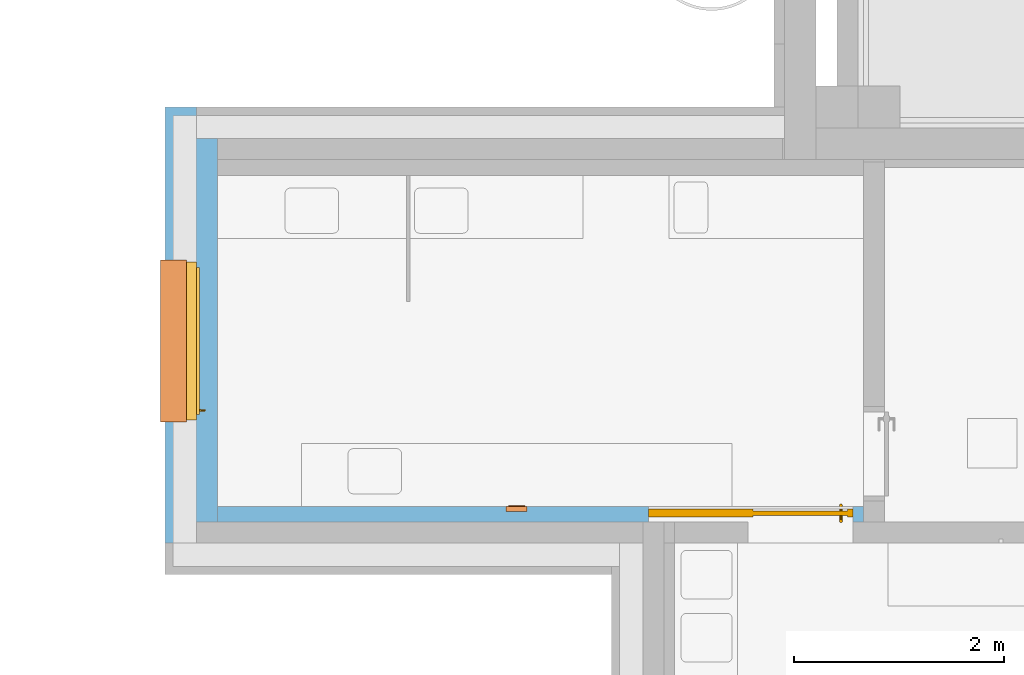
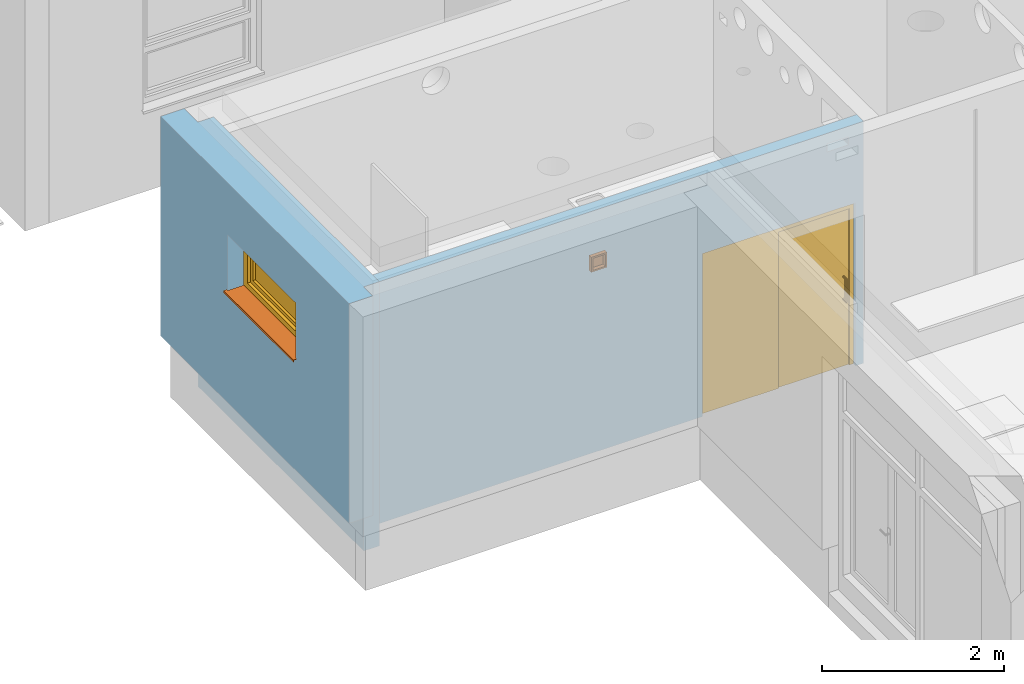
# One storey, part 67 of 140: 2 proxies, 1 door, 1 window, 4 openings, plus 2 elements that do not belong to this part.
"""IFC4 building model written with IfcOpenShell, lengths in metres."""

from ifc_helpers import new_model, entity, si_unit, converted_unit, derived_unit, frame, frame_2d, origin, origin_with_axes, place, context, subcontext, project, spatial, polyline, rectangle, outline, extrude, clip, bounded_halfspace, closed_shell, open_shell, faceted_brep, surface_model, source, transform, mapped, material, layer, layer_set, layer_usage, type_object, element, fill, save


model = new_model("IFC4")

# Units and contexts
model_context = context("Model", 3, precision=1e-05, world=origin())
body_context = subcontext(model_context, "Body", "Model", "MODEL_VIEW")
ifc_project = project(units=[si_unit("LENGTHUNIT", "METRE"), si_unit("AREAUNIT", "SQUARE_METRE"), si_unit("VOLUMEUNIT", "CUBIC_METRE"), si_unit("MASSUNIT", "GRAM", prefix="KILO"), converted_unit("PLANEANGLEUNIT", "DEGREE", entity("IfcPlaneAngleMeasure", 0.0174532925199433), si_unit("PLANEANGLEUNIT", "RADIAN"), dimensions=[0, 0, 0, 0, 0, 0, 0]), derived_unit("THERMALTRANSMITTANCEUNIT", [(si_unit("POWERUNIT", "WATT"), 1), (si_unit("THERMODYNAMICTEMPERATUREUNIT", "KELVIN"), -1), (si_unit("LENGTHUNIT", "METRE"), -2)]), derived_unit("VOLUMETRICFLOWRATEUNIT", [(si_unit("LENGTHUNIT", "METRE"), 3), (converted_unit("TIMEUNIT", "hour", entity("IfcTimeMeasure", 3600.0), si_unit("TIMEUNIT", "SECOND"), dimensions=[0, 0, 1, 0, 0, 0, 0]), -1), (si_unit("LENGTHUNIT", "METRE"), -1)])], contexts=[model_context])

# Site, building, storey
site_placement = place(None, origin())
site = spatial("IfcSite", under=ifc_project, at=site_placement, Name="3. ASŘ", CompositionType="ELEMENT")
building_placement = place(site_placement, origin())
building = spatial("IfcBuilding", under=site, at=building_placement, Name="Pavilon C", CompositionType="ELEMENT")
storey_placement = place(building_placement, origin())
storey = spatial("IfcBuildingStorey", under=building, at=storey_placement, Name="Půdorys 1.NP", CompositionType="ELEMENT", Elevation=0.0)

# Wall, opening, window, proxy
ifc_material_1 = material(Name="ZELEZOBETONOVÁ KCE")
ifc_layer_1 = layer(ifc_material_1, 0.2)
ifc_material_2 = material(Name="MINERÁLNÍ VATA")
ifc_layer_2 = layer(ifc_material_2, 0.3)
ifc_layer_set_1 = layer_set([ifc_layer_1, ifc_layer_2])
ifc_layer_usage_1 = layer_usage(ifc_layer_set_1, "AXIS2", "POSITIVE", 0.0)
wall_1_placement = place(storey_placement, frame((24.95, -7.95000000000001, -0.3), z_axis=(0.0, 0.0, 1.0), x_axis=(0.0, 1.0, 0.0)))
wall_1 = element("IfcWall", 1, at=wall_1_placement, inside=storey, material=ifc_layer_usage_1, Name="ZELEZOBETONOVÁ KCE", context=body_context, shape_type="Clipping", body=[
    clip(extrude(outline(polyline([(0.200000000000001, -0.5), (3.85000000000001, -0.5), (3.85000000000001, -0.3), (4.15000000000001, -0.3), (4.15000000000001, 0.0), (9.09494701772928e-16, 0.0), (0.0, -0.3), (0.200000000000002, -0.3), (0.200000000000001, -0.5)])), frame((-0.200000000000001, 0.5, 0.0), z_axis=(0.0, 0.0, 1.0), x_axis=(1.0, 0.0, 0.0)), (0.0, 0.0, 1.0), 3.55), bounded_halfspace(frame((1.85833333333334, 0.300000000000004, 0.6), z_axis=(0.0, 0.0, 1.0), x_axis=(-3.03164900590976e-15, -1.0, 0.0)), True, origin_with_axes(), polyline([(-0.199999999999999, 0.5), (-0.2, 0.2), (1.81898940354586e-15, 0.2), (3.65000000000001, 0.2), (3.95000000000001, 0.2), (3.95000000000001, 0.5), (-0.199999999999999, 0.5)]))),
])
opening_1_placement = place(wall_1_placement, frame((2.475, 0.2, 2.1), z_axis=(0.0, -1.0, 0.0), x_axis=(0.0, 0.0, 1.0)))
opening_1 = element("IfcOpeningElement", 2, at=opening_1_placement, cuts=wall_1, Name="Okenní otvor", ObjectType="Opening", context=body_context, shape_type="SweptSolid", body=[
    extrude(outline(polyline([(0.0, 1.5), (0.75, 1.5), (0.75, 0.0), (0.0, 0.0), (0.0, 1.5)])), origin_with_axes(), (0.0, 0.0, 1.0), 0.2),
    extrude(outline(polyline([(0.0, 1.5), (0.75, 1.5), (0.75, 0.0), (0.0, 0.0), (0.0, 1.5)])), frame((0.0, 0.0, -0.3), z_axis=(0.0, 0.0, 1.0), x_axis=(1.0, 0.0, 0.0)), (0.0, 0.0, 1.0), 0.3),
])
shared_shape_1 = source(origin_with_axes(), body_context, "Body", "SurfaceModel", [
    surface_model("IfcShellBasedSurfaceModel", [(0.0, 0.0950000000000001, 0.75), (0.0, 0.095, -5.81707229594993e-18), (0.08, 0.095, -5.81707229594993e-18), (0.08, 0.0950000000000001, 0.75), (0.0, 0.0, 5.81707229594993e-18), (0.0, 8.5265128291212e-17, 0.75), (0.08, 8.5265128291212e-17, 0.75), (0.08, 0.0, 5.81707229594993e-18)], [closed_shell([[[0, 1, 2, 3]], [[4, 5, 6, 7]], [[1, 0, 5, 4]], [[2, 1, 4, 7]], [[3, 2, 7, 6]], [[0, 3, 6, 5]]], orient=[[False], [False], [False], [False], [False], [False]])]),
    surface_model("IfcShellBasedSurfaceModel", [(1.42, 0.0950000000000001, 0.75), (1.42, 0.095, -5.81707229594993e-18), (1.5, 0.095, -5.81707229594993e-18), (1.5, 0.0950000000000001, 0.75), (1.42, 0.0, 5.81707229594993e-18), (1.42, 8.5265128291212e-17, 0.75), (1.5, 8.5265128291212e-17, 0.75), (1.5, 0.0, 5.81707229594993e-18)], [closed_shell([[[0, 1, 2, 3]], [[4, 5, 6, 7]], [[1, 0, 5, 4]], [[2, 1, 4, 7]], [[3, 2, 7, 6]], [[0, 3, 6, 5]]], orient=[[False], [False], [False], [False], [False], [False]])]),
    surface_model("IfcShellBasedSurfaceModel", [(0.08, 0.095, 0.08), (0.08, 0.095, -5.81707229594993e-18), (1.42, 0.095, -5.81707229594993e-18), (1.42, 0.095, 0.08), (0.08, 0.0, 5.81707229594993e-18), (0.08, 1.4210854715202e-17, 0.08), (1.42, 1.4210854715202e-17, 0.08), (1.42, 0.0, 5.81707229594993e-18)], [closed_shell([[[0, 1, 2, 3]], [[4, 5, 6, 7]], [[1, 0, 5, 4]], [[2, 1, 4, 7]], [[3, 2, 7, 6]], [[0, 3, 6, 5]]], orient=[[False], [False], [False], [False], [False], [False]])]),
    surface_model("IfcShellBasedSurfaceModel", [(0.08, 0.0950000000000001, 0.75), (0.08, 0.0950000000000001, 0.67), (1.42, 0.0950000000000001, 0.67), (1.42, 0.0950000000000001, 0.75), (0.08, 8.5265128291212e-17, 0.67), (0.08, 9.9475983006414e-17, 0.75), (1.42, 9.9475983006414e-17, 0.75), (1.42, 8.5265128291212e-17, 0.67)], [closed_shell([[[0, 1, 2, 3]], [[4, 5, 6, 7]], [[1, 0, 5, 4]], [[2, 1, 4, 7]], [[3, 2, 7, 6]], [[0, 3, 6, 5]]], orient=[[False], [False], [False], [False], [False], [False]])]),
    surface_model("IfcShellBasedSurfaceModel", [(0.05, 0.125, 0.7), (0.05, 0.125, 0.05), (0.13, 0.125, 0.05), (0.13, 0.125, 0.7), (0.05, 0.04, 0.05), (0.05, 0.0400000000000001, 0.7), (0.13, 0.0400000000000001, 0.7), (0.13, 0.04, 0.05)], [closed_shell([[[0, 1, 2, 3]], [[4, 5, 6, 7]], [[1, 0, 5, 4]], [[2, 1, 4, 7]], [[3, 2, 7, 6]], [[0, 3, 6, 5]]], orient=[[False], [False], [False], [False], [False], [False]])]),
    surface_model("IfcShellBasedSurfaceModel", [(1.37, 0.125, 0.7), (1.37, 0.125, 0.05), (1.45, 0.125, 0.05), (1.45, 0.125, 0.7), (1.37, 0.04, 0.05), (1.37, 0.0400000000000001, 0.7), (1.45, 0.0400000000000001, 0.7), (1.45, 0.04, 0.05)], [closed_shell([[[0, 1, 2, 3]], [[4, 5, 6, 7]], [[1, 0, 5, 4]], [[2, 1, 4, 7]], [[3, 2, 7, 6]], [[0, 3, 6, 5]]], orient=[[False], [False], [False], [False], [False], [False]])]),
    surface_model("IfcShellBasedSurfaceModel", [(0.13, 0.125, 0.13), (0.13, 0.125, 0.05), (1.37, 0.125, 0.05), (1.37, 0.125, 0.13), (0.13, 0.04, 0.05), (0.13, 0.04, 0.13), (1.37, 0.04, 0.13), (1.37, 0.04, 0.05)], [closed_shell([[[0, 1, 2, 3]], [[4, 5, 6, 7]], [[1, 0, 5, 4]], [[2, 1, 4, 7]], [[3, 2, 7, 6]], [[0, 3, 6, 5]]], orient=[[False], [False], [False], [False], [False], [False]])]),
    surface_model("IfcShellBasedSurfaceModel", [(0.13, 0.125, 0.7), (0.13, 0.125, 0.62), (1.37, 0.125, 0.62), (1.37, 0.125, 0.7), (0.13, 0.0400000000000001, 0.62), (0.13, 0.0400000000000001, 0.7), (1.37, 0.0400000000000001, 0.7), (1.37, 0.0400000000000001, 0.62)], [closed_shell([[[0, 1, 2, 3]], [[4, 5, 6, 7]], [[1, 0, 5, 4]], [[2, 1, 4, 7]], [[3, 2, 7, 6]], [[0, 3, 6, 5]]], orient=[[False], [False], [False], [False], [False], [False]])]),
    surface_model("IfcShellBasedSurfaceModel", [(0.0775, 0.125, 0.4), (0.1025, 0.125, 0.4), (0.1025, 0.125, 0.36), (0.0775, 0.125, 0.36), (0.0775, 0.135, 0.36), (0.1025, 0.135, 0.36), (0.1025, 0.135, 0.4), (0.0775, 0.135, 0.4)], [closed_shell([[[0, 1, 2, 3]], [[4, 5, 6, 7]], [[3, 4, 7, 0]], [[2, 5, 4, 3]], [[1, 6, 5, 2]], [[0, 7, 6, 1]]], orient=[[False], [False], [False], [False], [False], [False]])]),
    surface_model("IfcShellBasedSurfaceModel", [(0.1, 0.135, 0.38), (0.0986602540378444, 0.135, 0.375), (0.095, 0.135, 0.371339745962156), (0.09, 0.135, 0.37), (0.085, 0.135, 0.371339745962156), (0.0813397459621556, 0.135, 0.375), (0.08, 0.135, 0.38), (0.0813397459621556, 0.135, 0.385), (0.085, 0.135, 0.388660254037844), (0.09, 0.135, 0.39), (0.095, 0.135, 0.388660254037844), (0.0986602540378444, 0.135, 0.385), (0.0986602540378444, 0.18, 0.385), (0.1, 0.175, 0.38), (0.095, 0.183660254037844, 0.388660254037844), (0.09, 0.185, 0.39), (0.085, 0.183660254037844, 0.388660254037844), (0.0813397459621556, 0.18, 0.385), (0.08, 0.175, 0.38), (0.0813397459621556, 0.17, 0.375), (0.085, 0.166339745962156, 0.371339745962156), (0.09, 0.165, 0.37), (0.095, 0.166339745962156, 0.371339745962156), (0.0986602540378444, 0.17, 0.375), (0.0986602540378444, 0.18, 0.265), (0.1, 0.175, 0.265), (0.095, 0.183660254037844, 0.265), (0.09, 0.185, 0.265), (0.085, 0.183660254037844, 0.265), (0.0813397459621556, 0.18, 0.265), (0.08, 0.175, 0.265), (0.0813397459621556, 0.17, 0.265), (0.085, 0.166339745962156, 0.265), (0.09, 0.165, 0.265), (0.095, 0.166339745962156, 0.265), (0.0986602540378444, 0.17, 0.265)], [open_shell([[[0, 1, 2, 3, 4, 5, 6, 7, 8, 9, 10, 11]], [[0, 11, 12, 13]], [[11, 10, 14, 12]], [[10, 9, 15, 14]], [[9, 8, 16, 15]], [[8, 7, 17, 16]], [[7, 6, 18, 17]], [[6, 5, 19, 18]], [[5, 4, 20, 19]], [[4, 3, 21, 20]], [[3, 2, 22, 21]], [[2, 1, 23, 22]], [[1, 0, 13, 23]], [[13, 12, 24, 25]], [[12, 14, 26, 24]], [[14, 15, 27, 26]], [[15, 16, 28, 27]], [[16, 17, 29, 28]], [[17, 18, 30, 29]], [[18, 19, 31, 30]], [[19, 20, 32, 31]], [[20, 21, 33, 32]], [[21, 22, 34, 33]], [[22, 23, 35, 34]], [[23, 13, 25, 35]]], orient=[[False], [False], [False], [False], [False], [False], [False], [False], [False], [False], [False], [False], [False], [False], [False], [False], [False], [False], [False], [False], [False], [False], [False], [False], [False]])]),
    surface_model("IfcShellBasedSurfaceModel", [(0.13, 0.0925, 0.62), (0.13, 0.0925, 0.13), (1.37, 0.0925, 0.13), (1.37, 0.0925, 0.62), (0.13, 0.0725, 0.13), (0.13, 0.0725000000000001, 0.62), (1.37, 0.0725000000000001, 0.62), (1.37, 0.0725, 0.13)], [closed_shell([[[0, 1, 2, 3]], [[4, 5, 6, 7]], [[1, 0, 5, 4]], [[2, 1, 4, 7]], [[3, 2, 7, 6]], [[0, 3, 6, 5]]], orient=[[False], [False], [False], [False], [False], [False]])]),
])
window_placement = place(opening_1_placement, frame((0.0, 1.5, -0.0950000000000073), z_axis=(1.0, 0.0, 0.0), x_axis=(0.0, -1.0, -1.22464679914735e-16)))
window = element("IfcWindow", 3, at=window_placement, inside=storey, Name="II.OH01", OverallHeight=0.75, OverallWidth=1.5, PartitioningType="USERDEFINED", PredefinedType="WINDOW", context=body_context, shape_type="MappedRepresentation", body=[
    mapped(shared_shape_1, transform((0.0, 0.0, 0.0), x_axis=(1.0, 0.0, 0.0), y_axis=(0.0, -1.0, 0.0), z_axis=(0.0, 0.0, 1.0), scale=1.0)),
])
fill(opening_1, window)
ifc_material_3 = material(Name="HLINÍKOVÝ PLECH ELOXOVANÝ")
shared_shape_2 = source(origin_with_axes(), body_context, "Body", "Brep", [
    faceted_brep([(-1.81898940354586e-15, -0.300000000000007, 0.0), (-1.81898940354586e-15, -0.0950000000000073, 0.0), (-1.81898940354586e-15, -0.0950000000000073, 0.005), (-1.81898940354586e-15, -0.300000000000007, 0.005), (1.5, -0.300000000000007, 0.0), (1.5, -0.300000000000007, 0.005), (1.5, -0.0950000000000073, 0.005), (1.5, -0.0950000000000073, 0.0), (-0.0200000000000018, -0.300000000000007, 0.0), (-0.0200000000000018, -0.335000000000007, 0.0), (1.52, -0.335000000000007, 0.0), (1.52, -0.300000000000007, 0.0), (1.52, -0.300000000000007, 0.005), (1.52, -0.340000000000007, 0.005), (-0.0200000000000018, -0.340000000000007, 0.005), (-0.0200000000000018, -0.300000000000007, 0.005), (-0.0200000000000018, -0.340000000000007, -0.025), (-0.0200000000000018, -0.335000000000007, -0.025), (1.52, -0.335000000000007, -0.025), (1.52, -0.340000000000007, -0.025)], [[[0, 1, 2, 3]], [[4, 5, 6, 7]], [[1, 0, 8, 9, 10, 11, 4, 7]], [[2, 1, 7, 6]], [[3, 2, 6, 5, 12, 13, 14, 15]], [[8, 15, 14, 16, 17, 9]], [[11, 10, 18, 19, 13, 12]], [[15, 8, 0, 3]], [[5, 4, 11, 12]], [[16, 14, 13, 19]], [[17, 16, 19, 18]], [[9, 17, 18, 10]]], orient=[[False], [False], [False], [False], [False], [False], [False], [False], [False], [False], [False], [False]]),
    faceted_brep([(-0.0200000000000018, -0.300000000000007, 0.0), (-0.0200000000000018, -0.0950000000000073, 0.0), (-0.0200000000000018, -0.0950000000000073, 0.005), (-0.0200000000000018, -0.300000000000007, 0.005), (-1.81898940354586e-15, -0.300000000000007, 0.0), (-1.81898940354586e-15, -0.300000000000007, 0.005), (-1.81898940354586e-15, -0.0950000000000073, 0.005), (-1.81898940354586e-15, -0.0950000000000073, 0.0)], [[[0, 1, 2, 3]], [[4, 5, 6, 7]], [[1, 0, 4, 7]], [[2, 1, 7, 6]], [[3, 2, 6, 5]], [[0, 3, 5, 4]]], orient=[[False], [False], [False], [False], [False], [False]]),
    faceted_brep([(1.5, -0.300000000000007, 0.0), (1.5, -0.0950000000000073, 0.0), (1.5, -0.0950000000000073, 0.005), (1.5, -0.300000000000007, 0.005), (1.52, -0.300000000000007, 0.0), (1.52, -0.300000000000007, 0.005), (1.52, -0.0950000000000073, 0.005), (1.52, -0.0950000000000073, 0.0)], [[[0, 1, 2, 3]], [[4, 5, 6, 7]], [[1, 0, 4, 7]], [[2, 1, 7, 6]], [[3, 2, 6, 5]], [[0, 3, 5, 4]]], orient=[[False], [False], [False], [False], [False], [False]]),
])
proxy_1_placement = place(opening_1_placement, frame((0.0, 0.0, 0.0), z_axis=(1.0, 0.0, 0.0), x_axis=(0.0, 1.0, 0.0)))
proxy_1 = element("IfcBuildingElementProxy", 4, at=proxy_1_placement, inside=storey, material=ifc_material_3, Name="Parapet vnější", context=body_context, shape_type="MappedRepresentation", body=[
    mapped(shared_shape_2, transform((0.0, 0.0, 0.0), x_axis=(1.0, 0.0, 0.0), y_axis=(0.0, 1.0, 0.0), z_axis=(0.0, 0.0, 1.0), scale=1.0)),
])
fill(opening_1, proxy_1)

# Wall, openings, door, proxy
ifc_material_4 = material(Name="SDK INSTAL. PŘDSTĚNA VYSOKÁ")
ifc_layer_3 = layer(ifc_material_4, 0.15)
ifc_layer_set_2 = layer_set([ifc_layer_3])
ifc_layer_usage_2 = layer_usage(ifc_layer_set_2, "AXIS2", "POSITIVE", 0.0)
wall_2_placement = place(storey_placement, frame((24.95, -7.95000000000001, 0.0)))
wall_2 = element("IfcWall", 5, at=wall_2_placement, inside=storey, material=ifc_layer_usage_2, Name="SDK INSTAL. PŘDSTĚNA VYSOKÁ", context=body_context, shape_type="SweptSolid", body=[
    extrude(rectangle(XDim=6.15, YDim=0.15, at=frame_2d((3.075, 0.075), x_axis=(1.0, 0.0))), origin_with_axes(), (0.0, 0.0, 1.0), 3.25),
])
opening_2_placement = place(wall_2_placement, frame((6.05, 0.15, 0.0), z_axis=(0.0, -1.0, 0.0), x_axis=(0.0, 0.0, 1.0)))
opening_2 = element("IfcOpeningElement", 6, at=opening_2_placement, cuts=wall_2, Name="Dveřní otvor", ObjectType="Opening", context=body_context, shape_type="SweptSolid", body=[
    extrude(outline(polyline([(0.0, 1.945), (2.19, 1.945), (2.19, 0.0), (0.0, 0.0), (0.0, 1.945)])), origin_with_axes(), (0.0, 0.0, 1.0), 0.15),
])
opening_3_placement = place(wall_2_placement, frame((2.94999999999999, 0.149999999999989, 2.35), z_axis=(0.0, -1.0, 0.0), x_axis=(0.0, 0.0, 1.0)))
opening_3 = element("IfcOpeningElement", 7, at=opening_3_placement, cuts=wall_2, Name="Stěnová nika", ObjectType="Opening", context=body_context, shape_type="SweptSolid", body=[
    extrude(outline(polyline([(0.0, 0.2), (0.2, 0.2), (0.2, 0.0), (0.0, 0.0), (0.0, 0.2)])), origin_with_axes(), (0.0, 0.0, 1.0), 0.05),
])
opening_4_placement = place(wall_2_placement, frame((5.68750000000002, 0.0, 3.0), z_axis=(0.0, 1.0, 0.0), x_axis=(0.0, 0.0, 1.0)))
element("IfcOpeningElement", 8, at=opening_4_placement, cuts=wall_2, Name="Prostup stěnou", ObjectType="Opening", context=body_context, shape_type="SweptSolid", body=[
    extrude(outline(polyline([(0.0, 0.275), (0.11, 0.275), (0.11, 0.0), (0.0, 0.0), (0.0, 0.275)])), origin_with_axes(), (0.0, 0.0, 1.0), 0.15),
])
door_type = type_object("IfcDoorType", Name="II.DP01", OperationType="NOTDEFINED", ParameterTakesPrecedence=False, PredefinedType="DOOR")
shared_shape_3 = source(origin_with_axes(), body_context, "Body", "SurfaceModel", [
    surface_model("IfcShellBasedSurfaceModel", [(0.0, 0.13, 2.19), (0.0, 0.13, -4.59242549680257e-18), (0.995, 0.13, -4.59242549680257e-18), (0.995, 0.13, 2.19), (0.0, 0.0549999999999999, 4.59242549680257e-18), (0.0, 0.0550000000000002, 2.19), (0.995, 0.0550000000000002, 2.19), (0.995, 0.0549999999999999, 4.59242549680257e-18)], [closed_shell([[[0, 1, 2, 3]], [[4, 5, 6, 7]], [[1, 0, 5, 4]], [[2, 1, 4, 7]], [[3, 2, 7, 6]], [[0, 3, 6, 5]]], orient=[[False], [False], [False], [False], [False], [False]])]),
    surface_model("IfcShellBasedSurfaceModel", [(1.895, 0.13, 2.19), (1.895, 0.13, -4.59242549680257e-18), (1.945, 0.13, -4.59242549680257e-18), (1.945, 0.13, 2.19), (1.895, 0.0549999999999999, 4.59242549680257e-18), (1.895, 0.0550000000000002, 2.19), (1.945, 0.0550000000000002, 2.19), (1.945, 0.0549999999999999, 4.59242549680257e-18)], [closed_shell([[[0, 1, 2, 3]], [[4, 5, 6, 7]], [[1, 0, 5, 4]], [[2, 1, 4, 7]], [[3, 2, 7, 6]], [[0, 3, 6, 5]]], orient=[[False], [False], [False], [False], [False], [False]])]),
    surface_model("IfcShellBasedSurfaceModel", [(0.995, 0.13, 2.19), (0.995, 0.13, 2.1), (1.895, 0.13, 2.1), (1.895, 0.13, 2.19), (0.995, 0.0550000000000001, 2.1), (0.995, 0.0550000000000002, 2.19), (1.895, 0.0550000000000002, 2.19), (1.895, 0.0550000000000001, 2.1)], [closed_shell([[[0, 1, 2, 3]], [[4, 5, 6, 7]], [[1, 0, 5, 4]], [[2, 1, 4, 7]], [[3, 2, 7, 6]], [[0, 3, 6, 5]]], orient=[[False], [False], [False], [False], [False], [False]])]),
    surface_model("IfcShellBasedSurfaceModel", [(0.995, 0.11, 2.1), (0.995, 0.11, -2.14313189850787e-18), (1.895, 0.11, -2.14313189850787e-18), (1.895, 0.11, 2.1), (0.995, 0.0699999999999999, 2.75545529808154e-18), (0.995, 0.0700000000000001, 2.1), (1.895, 0.0700000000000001, 2.1), (1.895, 0.0699999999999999, 2.75545529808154e-18)], [closed_shell([[[0, 1, 2, 3]], [[4, 5, 6, 7]], [[1, 0, 5, 4]], [[2, 1, 4, 7]], [[3, 2, 7, 6]], [[0, 3, 6, 5]]], orient=[[False], [False], [False], [False], [False], [False]])]),
    surface_model("IfcShellBasedSurfaceModel", [(1.845, 0.07, 1.2), (1.84299038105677, 0.07, 1.2075), (1.8375, 0.07, 1.21299038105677), (1.83, 0.07, 1.215), (1.8225, 0.07, 1.21299038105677), (1.81700961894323, 0.07, 1.2075), (1.815, 0.07, 1.2), (1.81700961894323, 0.07, 1.1925), (1.8225, 0.07, 1.18700961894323), (1.83, 0.07, 1.185), (1.8375, 0.07, 1.18700961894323), (1.84299038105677, 0.07, 1.1925), (1.845, 0.015, 1.2), (1.84299038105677, 0.00750000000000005, 1.2075), (1.8375, 0.00200961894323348, 1.21299038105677), (1.83, 5.6843418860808e-17, 1.215), (1.8225, 0.00200961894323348, 1.21299038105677), (1.81700961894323, 0.00750000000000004, 1.2075), (1.815, 0.015, 1.2), (1.81700961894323, 0.0225, 1.1925), (1.8225, 0.0279903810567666, 1.18700961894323), (1.83, 0.03, 1.185), (1.8375, 0.0279903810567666, 1.18700961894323), (1.84299038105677, 0.0225000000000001, 1.1925), (1.845, 0.015, 0.9), (1.84299038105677, 0.0075, 0.8925), (1.8375, 0.00200961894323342, 0.887009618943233), (1.83, 0.0, 0.885), (1.8225, 0.00200961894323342, 0.887009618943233), (1.81700961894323, 0.00749999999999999, 0.8925), (1.815, 0.015, 0.9), (1.81700961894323, 0.0225, 0.9075), (1.8225, 0.0279903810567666, 0.912990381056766), (1.83, 0.03, 0.915), (1.8375, 0.0279903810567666, 0.912990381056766), (1.84299038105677, 0.0225, 0.9075), (1.845, 0.07, 0.9), (1.84299038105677, 0.07, 0.8925), (1.8375, 0.07, 0.887009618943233), (1.83, 0.07, 0.885), (1.8225, 0.07, 0.887009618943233), (1.81700961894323, 0.07, 0.8925), (1.815, 0.07, 0.9), (1.81700961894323, 0.07, 0.9075), (1.8225, 0.07, 0.912990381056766), (1.83, 0.07, 0.915), (1.8375, 0.07, 0.912990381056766), (1.84299038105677, 0.07, 0.9075)], [open_shell([[[0, 1, 2, 3, 4, 5, 6, 7, 8, 9, 10, 11]], [[0, 12, 13, 1]], [[1, 13, 14, 2]], [[2, 14, 15, 3]], [[3, 15, 16, 4]], [[4, 16, 17, 5]], [[5, 17, 18, 6]], [[6, 18, 19, 7]], [[7, 19, 20, 8]], [[8, 20, 21, 9]], [[9, 21, 22, 10]], [[10, 22, 23, 11]], [[11, 23, 12, 0]], [[12, 24, 25, 13]], [[13, 25, 26, 14]], [[14, 26, 27, 15]], [[15, 27, 28, 16]], [[16, 28, 29, 17]], [[17, 29, 30, 18]], [[18, 30, 31, 19]], [[19, 31, 32, 20]], [[20, 32, 33, 21]], [[21, 33, 34, 22]], [[22, 34, 35, 23]], [[23, 35, 24, 12]], [[24, 36, 37, 25]], [[25, 37, 38, 26]], [[26, 38, 39, 27]], [[27, 39, 40, 28]], [[28, 40, 41, 29]], [[29, 41, 42, 30]], [[30, 42, 43, 31]], [[31, 43, 44, 32]], [[32, 44, 45, 33]], [[33, 45, 46, 34]], [[34, 46, 47, 35]], [[35, 47, 36, 24]]], orient=[[False], [False], [False], [False], [False], [False], [False], [False], [False], [False], [False], [False], [False], [False], [False], [False], [False], [False], [False], [False], [False], [False], [False], [False], [False], [False], [False], [False], [False], [False], [False], [False], [False], [False], [False], [False], [False]])]),
    surface_model("IfcShellBasedSurfaceModel", [(1.845, 0.11, 1.2), (1.84299038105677, 0.11, 1.1925), (1.8375, 0.11, 1.18700961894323), (1.83, 0.11, 1.185), (1.8225, 0.11, 1.18700961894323), (1.81700961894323, 0.11, 1.1925), (1.815, 0.11, 1.2), (1.81700961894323, 0.11, 1.2075), (1.8225, 0.11, 1.21299038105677), (1.83, 0.11, 1.215), (1.8375, 0.11, 1.21299038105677), (1.84299038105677, 0.11, 1.2075), (1.84299038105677, 0.1725, 1.2075), (1.845, 0.165, 1.2), (1.8375, 0.177990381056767, 1.21299038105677), (1.83, 0.18, 1.215), (1.8225, 0.177990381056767, 1.21299038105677), (1.81700961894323, 0.1725, 1.2075), (1.815, 0.165, 1.2), (1.81700961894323, 0.1575, 1.1925), (1.8225, 0.152009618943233, 1.18700961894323), (1.83, 0.15, 1.185), (1.8375, 0.152009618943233, 1.18700961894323), (1.84299038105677, 0.1575, 1.1925), (1.84299038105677, 0.1725, 0.8925), (1.845, 0.165, 0.9), (1.8375, 0.177990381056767, 0.887009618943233), (1.83, 0.18, 0.885), (1.8225, 0.177990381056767, 0.887009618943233), (1.81700961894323, 0.1725, 0.8925), (1.815, 0.165, 0.9), (1.81700961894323, 0.1575, 0.9075), (1.8225, 0.152009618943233, 0.912990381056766), (1.83, 0.15, 0.915), (1.8375, 0.152009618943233, 0.912990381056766), (1.84299038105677, 0.1575, 0.9075), (1.84299038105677, 0.11, 0.8925), (1.845, 0.11, 0.9), (1.8375, 0.11, 0.887009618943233), (1.83, 0.11, 0.885), (1.8225, 0.11, 0.887009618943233), (1.81700961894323, 0.11, 0.8925), (1.815, 0.11, 0.9), (1.81700961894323, 0.11, 0.9075), (1.8225, 0.11, 0.912990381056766), (1.83, 0.11, 0.915), (1.8375, 0.11, 0.912990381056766), (1.84299038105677, 0.11, 0.9075)], [open_shell([[[0, 1, 2, 3, 4, 5, 6, 7, 8, 9, 10, 11]], [[0, 11, 12, 13]], [[11, 10, 14, 12]], [[10, 9, 15, 14]], [[9, 8, 16, 15]], [[8, 7, 17, 16]], [[7, 6, 18, 17]], [[6, 5, 19, 18]], [[5, 4, 20, 19]], [[4, 3, 21, 20]], [[3, 2, 22, 21]], [[2, 1, 23, 22]], [[1, 0, 13, 23]], [[13, 12, 24, 25]], [[12, 14, 26, 24]], [[14, 15, 27, 26]], [[15, 16, 28, 27]], [[16, 17, 29, 28]], [[17, 18, 30, 29]], [[18, 19, 31, 30]], [[19, 20, 32, 31]], [[20, 21, 33, 32]], [[21, 22, 34, 33]], [[22, 23, 35, 34]], [[23, 13, 25, 35]], [[25, 24, 36, 37]], [[24, 26, 38, 36]], [[26, 27, 39, 38]], [[27, 28, 40, 39]], [[28, 29, 41, 40]], [[29, 30, 42, 41]], [[30, 31, 43, 42]], [[31, 32, 44, 43]], [[32, 33, 45, 44]], [[33, 34, 46, 45]], [[34, 35, 47, 46]], [[35, 25, 37, 47]]], orient=[[False], [False], [False], [False], [False], [False], [False], [False], [False], [False], [False], [False], [False], [False], [False], [False], [False], [False], [False], [False], [False], [False], [False], [False], [False], [False], [False], [False], [False], [False], [False], [False], [False], [False], [False], [False], [False]])]),
])
door_placement = place(opening_2_placement, frame((0.0, 1.945, 0.155), z_axis=(1.0, 0.0, 0.0), x_axis=(0.0, -1.0, 2.44929359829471e-16)))
door = element("IfcDoor", 9, at=door_placement, inside=storey, type_object=door_type, Name="II.DP01", OverallHeight=2.19, OverallWidth=1.945, context=body_context, shape_type="MappedRepresentation", body=[
    mapped(shared_shape_3, transform((0.0, 0.0, 0.0), x_axis=(1.0, 0.0, 0.0), y_axis=(0.0, 1.0, 0.0), z_axis=(0.0, 0.0, 1.0), scale=1.0)),
])
fill(opening_2, door)
shared_shape_4 = source(origin_with_axes(), body_context, "Body", "Brep", [
    faceted_brep([(0.2, 0.05, 0.2), (0.18, 0.05, 0.2), (0.18, 0.05, 0.0), (0.2, 0.05, 0.0), (0.2, 0.0, 0.0), (0.18, 0.0, 0.0), (0.18, 0.0, 0.2), (0.2, 0.0, 0.2)], [[[0, 1, 2, 3]], [[4, 5, 6, 7]], [[3, 4, 7, 0]], [[2, 5, 4, 3]], [[1, 6, 5, 2]], [[0, 7, 6, 1]]], orient=[[False], [False], [False], [False], [False], [False]]),
    faceted_brep([(0.02, 0.05, 0.2), (0.0, 0.05, 0.2), (0.0, 0.05, 0.0), (0.02, 0.05, 0.0), (0.02, 0.0, 0.0), (0.0, 0.0, 0.0), (0.0, 0.0, 0.2), (0.02, 0.0, 0.2)], [[[0, 1, 2, 3]], [[4, 5, 6, 7]], [[3, 4, 7, 0]], [[2, 5, 4, 3]], [[1, 6, 5, 2]], [[0, 7, 6, 1]]], orient=[[False], [False], [False], [False], [False], [False]]),
    faceted_brep([(0.18, 0.05, 0.02), (0.02, 0.05, 0.02), (0.02, 0.05, 0.0), (0.18, 0.05, 0.0), (0.18, 0.0, 0.0), (0.02, 0.0, 0.0), (0.02, 0.0, 0.02), (0.18, 0.0, 0.02)], [[[0, 1, 2, 3]], [[4, 5, 6, 7]], [[3, 4, 7, 0]], [[2, 5, 4, 3]], [[1, 6, 5, 2]], [[0, 7, 6, 1]]], orient=[[False], [False], [False], [False], [False], [False]]),
    faceted_brep([(0.18, 0.05, 0.2), (0.02, 0.05, 0.2), (0.02, 0.05, 0.18), (0.18, 0.05, 0.18), (0.18, 0.0, 0.18), (0.02, 0.0, 0.18), (0.02, 0.0, 0.2), (0.18, 0.0, 0.2)], [[[0, 1, 2, 3]], [[4, 5, 6, 7]], [[3, 4, 7, 0]], [[2, 5, 4, 3]], [[1, 6, 5, 2]], [[0, 7, 6, 1]]], orient=[[False], [False], [False], [False], [False], [False]]),
    faceted_brep([(0.18, 0.0, 0.18), (0.02, 0.0, 0.18), (0.02, 0.0, 0.02), (0.18, 0.0, 0.02), (0.18, -0.01, 0.02), (0.02, -0.01, 0.02), (0.02, -0.01, 0.18), (0.18, -0.01, 0.18)], [[[0, 1, 2, 3]], [[4, 5, 6, 7]], [[3, 4, 7, 0]], [[2, 5, 4, 3]], [[1, 6, 5, 2]], [[0, 7, 6, 1]]], orient=[[False], [False], [False], [False], [False], [False]]),
])
proxy_2_placement = place(opening_3_placement, frame((0.0, 0.0, 0.0), z_axis=(1.0, 0.0, 0.0), x_axis=(0.0, 1.0, 0.0)))
proxy_2 = element("IfcBuildingElementProxy", 10, at=proxy_2_placement, inside=storey, Name="I.Z6", context=body_context, shape_type="MappedRepresentation", body=[
    mapped(shared_shape_4, transform((0.0, 0.0, 0.0), x_axis=(1.0, 0.0, 0.0), y_axis=(0.0, 1.0, 0.0), z_axis=(0.0, 0.0, 1.0), scale=1.0)),
])
fill(opening_3, proxy_2)

save(model, "model.ifc")
